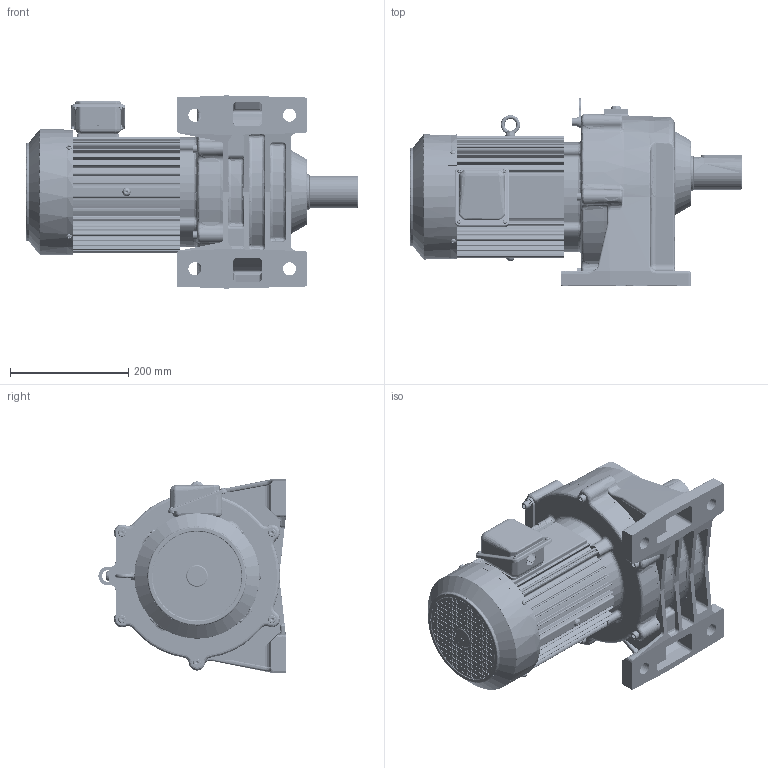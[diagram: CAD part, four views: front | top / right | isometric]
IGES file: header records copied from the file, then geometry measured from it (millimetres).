
Start section: SolidWorks IGES file using analytic representation for surfaces
Global section: file name: \\100.100.100.8\1_共有作業フォルダ\1-5_３Ｄデータ\solidworks\personal-folder\H.Nagayama\SGP1外形_075~370\P1(3D)_075~370\igs\TML2-22-(30~80).IGS; native system: SolidWorks 2018; preprocessor: SolidWorks 2018; author: user; date: 210309.154205; units: millimetre
Bounding box: 562 x 316.87 x 327 mm (x, y, z)
Surface area: 1108596.7 mm2 (no closed solid volume)
Topology: 0 solids, 0 shells, 3512 faces, 39239 edges, 39150 vertices
Faces by surface type: bspline 1825, revolution 1687
